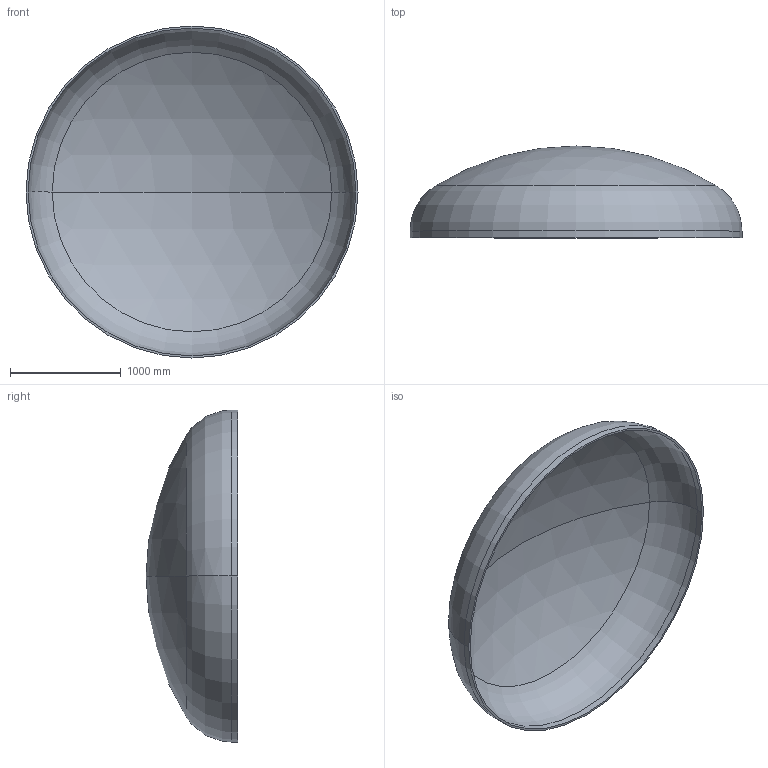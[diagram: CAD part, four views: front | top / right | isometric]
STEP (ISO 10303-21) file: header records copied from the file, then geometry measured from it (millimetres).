
FILE_DESCRIPTION (( 'STEP AP203' ), '1' );
FILE_NAME ('DIN 28013 Korbbogenform_-_Boden DIN 28013 - 3000 x 60 - I - s=19.step', '2016-07-01T17:33:36', ( '' ), ( '' ), 'SwSTEP 2.0', 'SolidWorks 2013', '' );
FILE_SCHEMA (( 'CONFIG_CONTROL_DESIGN' ));
Length unit declared in the file: millimetre
Products named in the file (1): DIN 28013 Korbbogenform_-_Boden DIN 28013 - 3000 x 60 - I - s=19
Bounding box: 3000 x 829.41 x 3000 mm (x, y, z)
Volume: 194980661.8 mm3; surface area: 20702964.9 mm2
Topology: 1 solids, 1 shells, 13 faces, 24 edges, 14 vertices
Faces by surface type: torus 4, cylinder 4, sphere 4, plane 1
Entity records: 407 total; most frequent: DIRECTION 72, CARTESIAN_POINT 52, ORIENTED_EDGE 48, AXIS2_PLACEMENT_3D 34, EDGE_CURVE 24, CIRCLE 20, EDGE_LOOP 14, VERTEX_POINT 14
